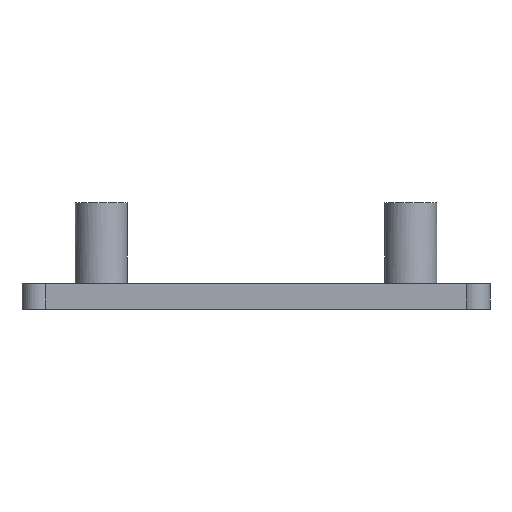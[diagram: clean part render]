
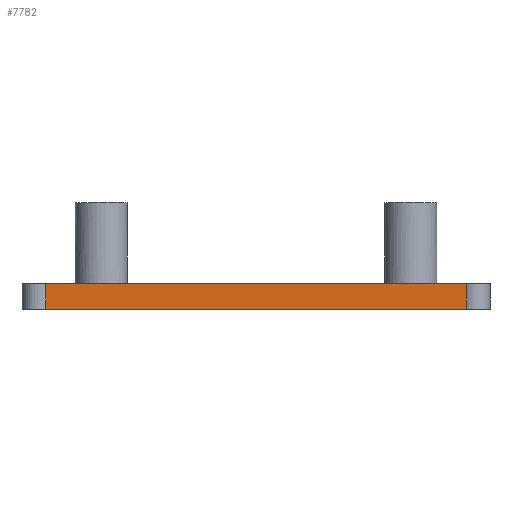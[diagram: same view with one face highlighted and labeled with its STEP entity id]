
A CAD part, left-side view. The second image highlights one B-rep face of the part: STEP entity #7782.
In plain terms, the highlighted planar face has unit normal (-1, 0, 0).
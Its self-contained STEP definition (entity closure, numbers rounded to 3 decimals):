
#3027 = CYLINDRICAL_SURFACE('',#3028,2.);
#3028 = AXIS2_PLACEMENT_3D('',#3029,#3030,#3031);
#3029 = CARTESIAN_POINT('',(2.,57.,0.));
#3030 = DIRECTION('',(0.,0.,1.));
#3031 = DIRECTION('',(1.,0.,-0.));
#5258 = VERTEX_POINT('',#5259);
#5259 = CARTESIAN_POINT('',(0.25,56.032,3.2));
#5283 = VERTEX_POINT('',#5284);
#5284 = CARTESIAN_POINT('',(0.25,56.032,
    0.));
#5306 = EDGE_CURVE('',#5283,#5258,#5307,.T.);
#5307 = SURFACE_CURVE('',#5308,(#5312,#5319),.PCURVE_S1.);
#5308 = LINE('',#5309,#5310);
#5309 = CARTESIAN_POINT('',(0.25,56.032,
    0.));
#5310 = VECTOR('',#5311,1.);
#5311 = DIRECTION('',(0.,0.,1.));
#5312 = PCURVE('',#3027,#5313);
#5313 = DEFINITIONAL_REPRESENTATION('',(#5314),#5318);
#5314 = LINE('',#5315,#5316);
#5315 = CARTESIAN_POINT('',(3.647,0.));
#5316 = VECTOR('',#5317,1.);
#5317 = DIRECTION('',(0.,1.));
#5318 = ( GEOMETRIC_REPRESENTATION_CONTEXT(2) 
PARAMETRIC_REPRESENTATION_CONTEXT() REPRESENTATION_CONTEXT('2D SPACE',''
  ) );
#5319 = PCURVE('',#5320,#5325);
#5320 = PLANE('',#5321);
#5321 = AXIS2_PLACEMENT_3D('',#5322,#5323,#5324);
#5322 = CARTESIAN_POINT('',(0.25,2.,0.));
#5323 = DIRECTION('',(-1.,0.,0.));
#5324 = DIRECTION('',(0.,1.,0.));
#5325 = DEFINITIONAL_REPRESENTATION('',(#5326),#5330);
#5326 = LINE('',#5327,#5328);
#5327 = CARTESIAN_POINT('',(54.032,0.));
#5328 = VECTOR('',#5329,1.);
#5329 = DIRECTION('',(0.,-1.));
#5330 = ( GEOMETRIC_REPRESENTATION_CONTEXT(2) 
PARAMETRIC_REPRESENTATION_CONTEXT() REPRESENTATION_CONTEXT('2D SPACE',''
  ) );
#5593 = PLANE('',#5594);
#5594 = AXIS2_PLACEMENT_3D('',#5595,#5596,#5597);
#5595 = CARTESIAN_POINT('',(2.,29.5,0.));
#5596 = DIRECTION('',(-0.,-0.,-1.));
#5597 = DIRECTION('',(-1.,0.,0.));
#5891 = PLANE('',#5892);
#5892 = AXIS2_PLACEMENT_3D('',#5893,#5894,#5895);
#5893 = CARTESIAN_POINT('',(2.,29.5,3.2));
#5894 = DIRECTION('',(-0.,-0.,-1.));
#5895 = DIRECTION('',(-1.,0.,0.));
#7782 = ADVANCED_FACE('',(#7783),#5320,.T.);
#7783 = FACE_BOUND('',#7784,.T.);
#7784 = EDGE_LOOP('',(#7785,#7808,#7836,#7857));
#7785 = ORIENTED_EDGE('',*,*,#7786,.F.);
#7786 = EDGE_CURVE('',#7787,#5283,#7789,.T.);
#7787 = VERTEX_POINT('',#7788);
#7788 = CARTESIAN_POINT('',(0.25,2.968,0.
    ));
#7789 = SURFACE_CURVE('',#7790,(#7794,#7801),.PCURVE_S1.);
#7790 = LINE('',#7791,#7792);
#7791 = CARTESIAN_POINT('',(0.25,2.,0.));
#7792 = VECTOR('',#7793,1.);
#7793 = DIRECTION('',(0.,1.,0.));
#7794 = PCURVE('',#5320,#7795);
#7795 = DEFINITIONAL_REPRESENTATION('',(#7796),#7800);
#7796 = LINE('',#7797,#7798);
#7797 = CARTESIAN_POINT('',(0.,0.));
#7798 = VECTOR('',#7799,1.);
#7799 = DIRECTION('',(1.,0.));
#7800 = ( GEOMETRIC_REPRESENTATION_CONTEXT(2) 
PARAMETRIC_REPRESENTATION_CONTEXT() REPRESENTATION_CONTEXT('2D SPACE',''
  ) );
#7801 = PCURVE('',#5593,#7802);
#7802 = DEFINITIONAL_REPRESENTATION('',(#7803),#7807);
#7803 = LINE('',#7804,#7805);
#7804 = CARTESIAN_POINT('',(1.75,-27.5));
#7805 = VECTOR('',#7806,1.);
#7806 = DIRECTION('',(0.,1.));
#7807 = ( GEOMETRIC_REPRESENTATION_CONTEXT(2) 
PARAMETRIC_REPRESENTATION_CONTEXT() REPRESENTATION_CONTEXT('2D SPACE',''
  ) );
#7808 = ORIENTED_EDGE('',*,*,#7809,.T.);
#7809 = EDGE_CURVE('',#7787,#7810,#7812,.T.);
#7810 = VERTEX_POINT('',#7811);
#7811 = CARTESIAN_POINT('',(0.25,2.968,3.2));
#7812 = SURFACE_CURVE('',#7813,(#7817,#7824),.PCURVE_S1.);
#7813 = LINE('',#7814,#7815);
#7814 = CARTESIAN_POINT('',(0.25,2.968,0.
    ));
#7815 = VECTOR('',#7816,1.);
#7816 = DIRECTION('',(0.,0.,1.));
#7817 = PCURVE('',#5320,#7818);
#7818 = DEFINITIONAL_REPRESENTATION('',(#7819),#7823);
#7819 = LINE('',#7820,#7821);
#7820 = CARTESIAN_POINT('',(0.968,0.));
#7821 = VECTOR('',#7822,1.);
#7822 = DIRECTION('',(0.,-1.));
#7823 = ( GEOMETRIC_REPRESENTATION_CONTEXT(2) 
PARAMETRIC_REPRESENTATION_CONTEXT() REPRESENTATION_CONTEXT('2D SPACE',''
  ) );
#7824 = PCURVE('',#7825,#7830);
#7825 = CYLINDRICAL_SURFACE('',#7826,2.);
#7826 = AXIS2_PLACEMENT_3D('',#7827,#7828,#7829);
#7827 = CARTESIAN_POINT('',(2.,2.,0.));
#7828 = DIRECTION('',(0.,0.,1.));
#7829 = DIRECTION('',(1.,0.,-0.));
#7830 = DEFINITIONAL_REPRESENTATION('',(#7831),#7835);
#7831 = LINE('',#7832,#7833);
#7832 = CARTESIAN_POINT('',(2.636,0.));
#7833 = VECTOR('',#7834,1.);
#7834 = DIRECTION('',(0.,1.));
#7835 = ( GEOMETRIC_REPRESENTATION_CONTEXT(2) 
PARAMETRIC_REPRESENTATION_CONTEXT() REPRESENTATION_CONTEXT('2D SPACE',''
  ) );
#7836 = ORIENTED_EDGE('',*,*,#7837,.T.);
#7837 = EDGE_CURVE('',#7810,#5258,#7838,.T.);
#7838 = SURFACE_CURVE('',#7839,(#7843,#7850),.PCURVE_S1.);
#7839 = LINE('',#7840,#7841);
#7840 = CARTESIAN_POINT('',(0.25,2.,3.2));
#7841 = VECTOR('',#7842,1.);
#7842 = DIRECTION('',(0.,1.,0.));
#7843 = PCURVE('',#5320,#7844);
#7844 = DEFINITIONAL_REPRESENTATION('',(#7845),#7849);
#7845 = LINE('',#7846,#7847);
#7846 = CARTESIAN_POINT('',(0.,-3.2));
#7847 = VECTOR('',#7848,1.);
#7848 = DIRECTION('',(1.,0.));
#7849 = ( GEOMETRIC_REPRESENTATION_CONTEXT(2) 
PARAMETRIC_REPRESENTATION_CONTEXT() REPRESENTATION_CONTEXT('2D SPACE',''
  ) );
#7850 = PCURVE('',#5891,#7851);
#7851 = DEFINITIONAL_REPRESENTATION('',(#7852),#7856);
#7852 = LINE('',#7853,#7854);
#7853 = CARTESIAN_POINT('',(1.75,-27.5));
#7854 = VECTOR('',#7855,1.);
#7855 = DIRECTION('',(0.,1.));
#7856 = ( GEOMETRIC_REPRESENTATION_CONTEXT(2) 
PARAMETRIC_REPRESENTATION_CONTEXT() REPRESENTATION_CONTEXT('2D SPACE',''
  ) );
#7857 = ORIENTED_EDGE('',*,*,#5306,.F.);
